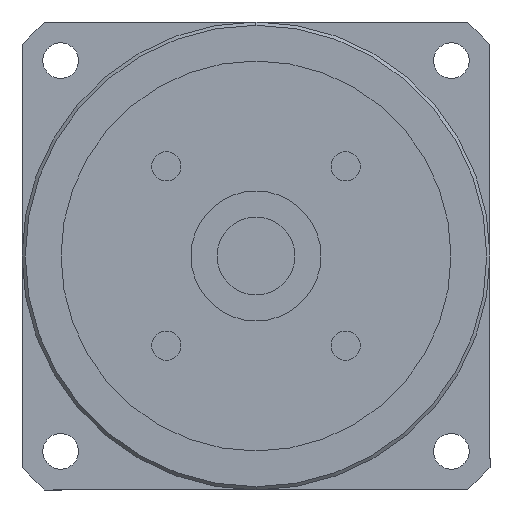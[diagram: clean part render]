
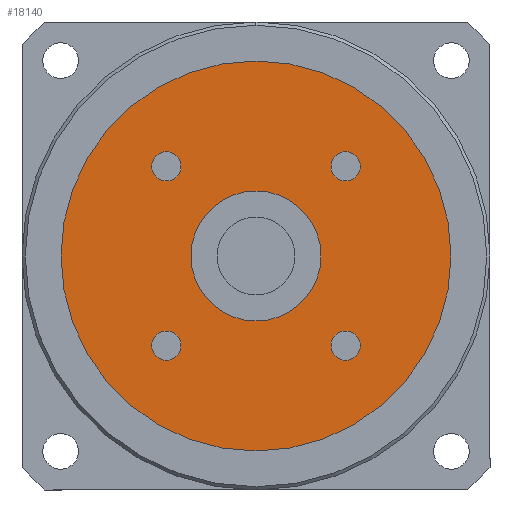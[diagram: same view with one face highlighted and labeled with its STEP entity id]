
A CAD part, left-side view. The second image highlights one B-rep face of the part: STEP entity #18140.
In plain terms, the highlighted planar face has unit normal (-1, 0, 0) as drawn and (0, 0, -1) by its records, which use the part's own axes.
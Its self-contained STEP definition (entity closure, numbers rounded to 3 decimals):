
#15130=CARTESIAN_POINT('',(13.789,-11.539,-91.));
#15140=VERTEX_POINT('',#15130);
#15320=CARTESIAN_POINT('',(13.789,-16.039,-91.));
#15330=VERTEX_POINT('',#15320);
#15360=CARTESIAN_POINT('',(13.789,-13.789,-91.));
#15370=DIRECTION('',(0.,0.,-1.));
#15380=DIRECTION('',(1.,0.,0.));
#15390=AXIS2_PLACEMENT_3D('',#15360,#15370,#15380);
#15400=CIRCLE('',#15390,2.25);
#15410=CARTESIAN_POINT('',(16.039,-13.789,-91.));
#15420=VERTEX_POINT('',#15410);
#15430=EDGE_CURVE('',#15420,#15330,#15400,.T.);
#15450=EDGE_CURVE('',#15140,#15420,#15400,.T.);
#15550=CARTESIAN_POINT('',(0.,0.,
-91.));
#15560=DIRECTION('',(0.,0.,1.));
#15570=DIRECTION('',(0.,-1.,0.));
#15580=AXIS2_PLACEMENT_3D('',#15550,#15560,#15570);
#15590=CIRCLE('',#15580,10.);
#15600=CARTESIAN_POINT('',(0.,-10.,-91.));
#15610=VERTEX_POINT('',#15600);
#15620=CARTESIAN_POINT('',(10.,0.,-91.))
;
#15630=VERTEX_POINT('',#15620);
#15640=EDGE_CURVE('',#15610,#15630,#15590,.T.);
#15910=CARTESIAN_POINT('',(-10.,0.,-91.));
#15920=VERTEX_POINT('',#15910);
#15950=EDGE_CURVE('',#15920,#15610,#15590,.T.);
#17070=CARTESIAN_POINT('',(30.,0.,-91.));
#17080=VERTEX_POINT('',#17070);
#17110=CARTESIAN_POINT('',(0.,0.,
-91.));
#17120=DIRECTION('',(0.,0.,1.));
#17130=DIRECTION('',(0.,-1.,0.));
#17140=AXIS2_PLACEMENT_3D('',#17110,#17120,#17130);
#17150=CIRCLE('',#17140,30.);
#17160=CARTESIAN_POINT('',(0.,-30.,-91.));
#17170=VERTEX_POINT('',#17160);
#17180=EDGE_CURVE('',#17170,#17080,#17150,.T.);
#17200=CARTESIAN_POINT('',(-30.,0.,-91.));
#17210=VERTEX_POINT('',#17200);
#17220=EDGE_CURVE('',#17210,#17170,#17150,.T.);
#17340=CARTESIAN_POINT('',(0.,0.,
-91.));
#17350=DIRECTION('',(0.,0.,1.));
#17360=DIRECTION('',(-1.,0.,0.));
#17370=AXIS2_PLACEMENT_3D('',#17340,#17350,#17360);
#17380=PLANE('',#17370);
#17390=CARTESIAN_POINT('',(13.789,13.789,-91.));
#17400=DIRECTION('',(0.,0.,-1.));
#17410=DIRECTION('',(0.,1.,0.));
#17420=AXIS2_PLACEMENT_3D('',#17390,#17400,#17410);
#17430=CIRCLE('',#17420,2.25);
#17440=CARTESIAN_POINT('',(13.789,16.039,-91.));
#17450=VERTEX_POINT('',#17440);
#17460=CARTESIAN_POINT('',(16.039,13.789,-91.));
#17470=VERTEX_POINT('',#17460);
#17480=EDGE_CURVE('',#17450,#17470,#17430,.T.);
#17490=ORIENTED_EDGE('',*,*,#17480,.F.);
#17500=CARTESIAN_POINT('',(11.539,13.789,-91.));
#17510=VERTEX_POINT('',#17500);
#17520=EDGE_CURVE('',#17470,#17510,#17430,.T.);
#17530=ORIENTED_EDGE('',*,*,#17520,.F.);
#17540=EDGE_CURVE('',#17510,#17450,#17430,.T.);
#17550=ORIENTED_EDGE('',*,*,#17540,.F.);
#17560=EDGE_LOOP('',(#17550,#17530,#17490));
#17570=FACE_BOUND('',#17560,.T.);
#17580=CARTESIAN_POINT('',(-13.789,13.789,-91.));
#17590=DIRECTION('',(0.,0.,-1.));
#17600=DIRECTION('',(-1.,0.,0.));
#17610=AXIS2_PLACEMENT_3D('',#17580,#17590,#17600);
#17620=CIRCLE('',#17610,2.25);
#17630=CARTESIAN_POINT('',(-16.039,13.789,-91.));
#17640=VERTEX_POINT('',#17630);
#17650=CARTESIAN_POINT('',(-13.789,16.039,-91.));
#17660=VERTEX_POINT('',#17650);
#17670=EDGE_CURVE('',#17640,#17660,#17620,.T.);
#17680=ORIENTED_EDGE('',*,*,#17670,.F.);
#17690=CARTESIAN_POINT('',(-13.789,11.539,-91.));
#17700=VERTEX_POINT('',#17690);
#17710=EDGE_CURVE('',#17660,#17700,#17620,.T.);
#17720=ORIENTED_EDGE('',*,*,#17710,.F.);
#17730=EDGE_CURVE('',#17700,#17640,#17620,.T.);
#17740=ORIENTED_EDGE('',*,*,#17730,.F.);
#17750=EDGE_LOOP('',(#17740,#17720,#17680));
#17760=FACE_BOUND('',#17750,.T.);
#17770=CARTESIAN_POINT('',(-13.789,-13.789,-91.));
#17780=DIRECTION('',(0.,0.,-1.));
#17790=DIRECTION('',(0.,-1.,0.));
#17800=AXIS2_PLACEMENT_3D('',#17770,#17780,#17790);
#17810=CIRCLE('',#17800,2.25);
#17820=CARTESIAN_POINT('',(-13.789,-16.039,-91.));
#17830=VERTEX_POINT('',#17820);
#17840=CARTESIAN_POINT('',(-16.039,-13.789,-91.));
#17850=VERTEX_POINT('',#17840);
#17860=EDGE_CURVE('',#17830,#17850,#17810,.T.);
#17870=ORIENTED_EDGE('',*,*,#17860,.F.);
#17880=CARTESIAN_POINT('',(-11.539,-13.789,-91.));
#17890=VERTEX_POINT('',#17880);
#17900=EDGE_CURVE('',#17850,#17890,#17810,.T.);
#17910=ORIENTED_EDGE('',*,*,#17900,.F.);
#17920=EDGE_CURVE('',#17890,#17830,#17810,.T.);
#17930=ORIENTED_EDGE('',*,*,#17920,.F.);
#17940=EDGE_LOOP('',(#17930,#17910,#17870));
#17950=FACE_BOUND('',#17940,.T.);
#17960=EDGE_CURVE('',#15630,#15920,#15590,.T.);
#17970=ORIENTED_EDGE('',*,*,#17960,.T.);
#17980=ORIENTED_EDGE('',*,*,#15640,.T.);
#17990=ORIENTED_EDGE('',*,*,#15950,.T.);
#18000=EDGE_LOOP('',(#17990,#17980,#17970));
#18010=FACE_BOUND('',#18000,.T.);
#18020=ORIENTED_EDGE('',*,*,#15430,.F.);
#18030=EDGE_CURVE('',#15330,#15140,#15400,.T.);
#18040=ORIENTED_EDGE('',*,*,#18030,.F.);
#18050=ORIENTED_EDGE('',*,*,#15450,.F.);
#18060=EDGE_LOOP('',(#18050,#18040,#18020));
#18070=FACE_BOUND('',#18060,.T.);
#18080=ORIENTED_EDGE('',*,*,#17180,.F.);
#18090=EDGE_CURVE('',#17080,#17210,#17150,.T.);
#18100=ORIENTED_EDGE('',*,*,#18090,.F.);
#18110=ORIENTED_EDGE('',*,*,#17220,.F.);
#18120=EDGE_LOOP('',(#18110,#18100,#18080));
#18130=FACE_OUTER_BOUND('',#18120,.T.);
#18140=ADVANCED_FACE('',(#17570,#17760,#17950,#18010,#18070,#18130),
#17380,.F.);
